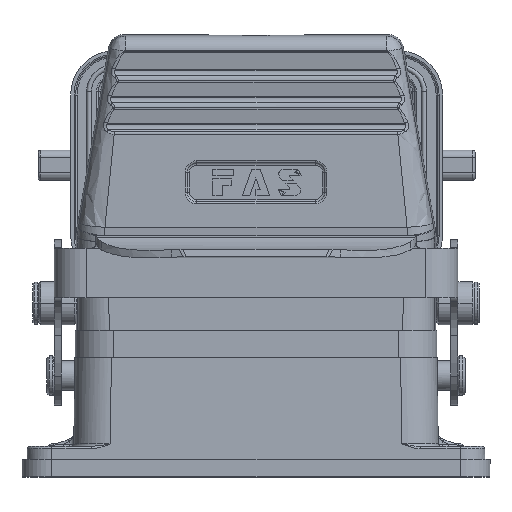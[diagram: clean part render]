
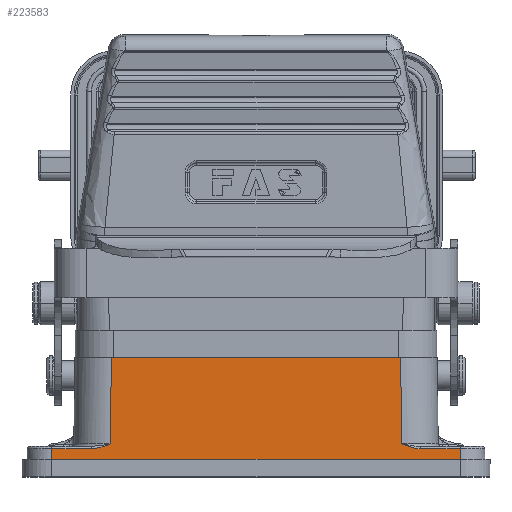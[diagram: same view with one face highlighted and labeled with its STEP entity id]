
A CAD part, top view. The second image highlights one B-rep face of the part: STEP entity #223583.
In plain terms, the highlighted planar face has unit normal (0, 0.014, 1) as drawn and (0, -1, 0.014) by its records, which use the part's own axes.
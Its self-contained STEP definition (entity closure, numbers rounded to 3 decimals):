
#4248 = DIRECTION ( 'NONE',  ( -0.014, -0.014, -1. ) ) ;
#5761 = CARTESIAN_POINT ( 'NONE',  ( 32.192, -21.756, 3.851 ) ) ;
#8778 = ORIENTED_EDGE ( 'NONE', *, *, #34207, .T. ) ;
#15384 = CARTESIAN_POINT ( 'NONE',  ( 31.793, -21.755, 3.937 ) ) ;
#17188 = VECTOR ( 'NONE', #36092, 1000. ) ;
#17341 = CARTESIAN_POINT ( 'NONE',  ( -31.416, -21.753, 4.051 ) ) ;
#20079 = CARTESIAN_POINT ( 'NONE',  ( -31.463, -21.754, 4.037 ) ) ;
#21852 = DIRECTION ( 'NONE',  ( -0.014, 0.014, 1. ) ) ;
#22779 = ORIENTED_EDGE ( 'NONE', *, *, #130205, .T. ) ;
#23771 = DIRECTION ( 'NONE',  ( 0., -1., 0.014 ) ) ;
#24103 = DIRECTION ( 'NONE',  ( -1., 0., 0. ) ) ;
#25160 = CARTESIAN_POINT ( 'NONE',  ( -41.449, -21.758, 3.707 ) ) ;
#31518 = ORIENTED_EDGE ( 'NONE', *, *, #123358, .F. ) ;
#34207 = EDGE_CURVE ( 'NONE', #229043, #210422, #190977, .T. ) ;
#36092 = DIRECTION ( 'NONE',  ( 1., 0., 0. ) ) ;
#40773 = CARTESIAN_POINT ( 'NONE',  ( 29.595, -21.744, 4.693 ) ) ;
#41077 = CARTESIAN_POINT ( 'NONE',  ( -31.364, -21.753, 4.067 ) ) ;
#42737 = VECTOR ( 'NONE', #4248, 1000. ) ;
#48608 = AXIS2_PLACEMENT_3D ( 'NONE', #260065, #23771, #152423 ) ;
#50511 = CARTESIAN_POINT ( 'NONE',  ( 32.928, -21.758, 3.726 ) ) ;
#51417 = VERTEX_POINT ( 'NONE', #237705 ) ;
#53500 = EDGE_CURVE ( 'NONE', #51417, #87062, #139252, .T. ) ;
#59302 = CARTESIAN_POINT ( 'NONE',  ( -31.257, -21.753, 4.1 ) ) ;
#60660 = CARTESIAN_POINT ( 'NONE',  ( -29.989, -21.747, 4.542 ) ) ;
#61121 = B_SPLINE_CURVE_WITH_KNOTS ( 'NONE', 3,
 ( #269310, #179855, #224617, #139363 ),
 .UNSPECIFIED., .F., .F.,
 ( 4, 4 ),
 ( 0., 1. ),
 .UNSPECIFIED. ) ;
#61937 = CARTESIAN_POINT ( 'NONE',  ( -48.758, -21.758, 3.707 ) ) ;
#66744 = CARTESIAN_POINT ( 'NONE',  ( 30.042, -21.747, 4.519 ) ) ;
#74893 = VECTOR ( 'NONE', #177717, 1000. ) ;
#75851 = CARTESIAN_POINT ( 'NONE',  ( 0., -21.5, 22.2 ) ) ;
#76330 = ORIENTED_EDGE ( 'NONE', *, *, #191256, .T. ) ;
#76575 = CARTESIAN_POINT ( 'NONE',  ( 29.351, -21.5, 22.2 ) ) ;
#86352 = CARTESIAN_POINT ( 'NONE',  ( 30.947, -21.751, 4.2 ) ) ;
#87062 = VERTEX_POINT ( 'NONE', #127029 ) ;
#88926 = CARTESIAN_POINT ( 'NONE',  ( 30.947, -21.751, 4.2 ) ) ;
#89528 = FACE_OUTER_BOUND ( 'NONE', #151383, .T. ) ;
#91014 = VERTEX_POINT ( 'NONE', #88926 ) ;
#96300 = LINE ( 'NONE', #118664, #17188 ) ;
#100046 = EDGE_CURVE ( 'NONE', #91014, #257447, #253092, .T. ) ;
#101261 = CARTESIAN_POINT ( 'NONE',  ( -31.464, -21.754, 4.037 ) ) ;
#104379 = CARTESIAN_POINT ( 'NONE',  ( 41.5, -21.81, 0. ) ) ;
#104409 = CARTESIAN_POINT ( 'NONE',  ( 32.17, -21.756, 3.855 ) ) ;
#110087 = CARTESIAN_POINT ( 'NONE',  ( 30.493, -21.749, 4.355 ) ) ;
#110620 = ORIENTED_EDGE ( 'NONE', *, *, #100046, .T. ) ;
#110640 = CARTESIAN_POINT ( 'NONE',  ( 32.361, -21.757, 3.816 ) ) ;
#112028 = CARTESIAN_POINT ( 'NONE',  ( 32.213, -21.756, 3.846 ) ) ;
#113631 = ORIENTED_EDGE ( 'NONE', *, *, #258614, .F. ) ;
#114793 = CARTESIAN_POINT ( 'NONE',  ( 32.554, -21.757, 3.781 ) ) ;
#117555 = CARTESIAN_POINT ( 'NONE',  ( 31.388, -21.753, 4.052 ) ) ;
#117803 = DIRECTION ( 'NONE',  ( 1., 0., 0. ) ) ;
#118664 = CARTESIAN_POINT ( 'NONE',  ( 0., -21.81, 0. ) ) ;
#122757 = CARTESIAN_POINT ( 'NONE',  ( 41.449, -21.758, 3.707 ) ) ;
#123358 = EDGE_CURVE ( 'NONE', #135894, #275146, #250504, .T. ) ;
#123695 = CARTESIAN_POINT ( 'NONE',  ( 41.5, -21.81, 0. ) ) ;
#124985 = CARTESIAN_POINT ( 'NONE',  ( -31.028, -21.752, 4.173 ) ) ;
#126350 = CARTESIAN_POINT ( 'NONE',  ( -31.442, -21.754, 4.044 ) ) ;
#127029 = CARTESIAN_POINT ( 'NONE',  ( -33.417, -21.758, 3.707 ) ) ;
#130097 = PLANE ( 'NONE',  #48608 ) ;
#130205 = EDGE_CURVE ( 'NONE', #210422, #223768, #253455, .T. ) ;
#135894 = VERTEX_POINT ( 'NONE', #174432 ) ;
#139217 = CARTESIAN_POINT ( 'NONE',  ( -41.449, -21.758, 3.707 ) ) ;
#139252 = B_SPLINE_CURVE_WITH_KNOTS ( 'NONE', 3,
 ( #187835, #60660, #208841, #124985, #59302, #41077, #17341, #126350, #145964, #211557, #20079, #101261, #190566, #186471, #249437 ),
 .UNSPECIFIED., .F., .F.,
 ( 4, 1, 1, 1, 1, 1, 1, 1, 2, 2, 4 ),
 ( 0., 0.25, 0.375, 0.438, 0.469, 0.484, 0.492, 0.496, 0.498, 0.5, 1. ),
 .UNSPECIFIED. ) ;
#139363 = CARTESIAN_POINT ( 'NONE',  ( 29.595, -21.744, 4.693 ) ) ;
#145964 = CARTESIAN_POINT ( 'NONE',  ( -31.454, -21.754, 4.04 ) ) ;
#147238 = DIRECTION ( 'NONE',  ( -1., 0., 0. ) ) ;
#150940 = VERTEX_POINT ( 'NONE', #270183 ) ;
#151383 = EDGE_LOOP ( 'NONE', ( #22779, #76330, #110620, #113631, #31518, #269257, #191437, #172435, #204808, #237992, #8778 ) ) ;
#152423 = DIRECTION ( 'NONE',  ( -1., 0., 0. ) ) ;
#160789 = VECTOR ( 'NONE', #147238, 1000. ) ;
#163582 = CARTESIAN_POINT ( 'NONE',  ( 30.947, -21.751, 4.2 ) ) ;
#169506 = LINE ( 'NONE', #173676, #238062 ) ;
#171564 = CARTESIAN_POINT ( 'NONE',  ( 29.595, -21.744, 4.693 ) ) ;
#172099 = VERTEX_POINT ( 'NONE', #139217 ) ;
#172435 = ORIENTED_EDGE ( 'NONE', *, *, #249196, .T. ) ;
#173676 = CARTESIAN_POINT ( 'NONE',  ( -48.758, -21.758, 3.707 ) ) ;
#174432 = CARTESIAN_POINT ( 'NONE',  ( -29.351, -21.5, 22.2 ) ) ;
#174831 = VECTOR ( 'NONE', #117803, 1000. ) ;
#176265 = CARTESIAN_POINT ( 'NONE',  ( 32.178, -21.756, 3.854 ) ) ;
#177717 = DIRECTION ( 'NONE',  ( -0.014, -0.014, -1. ) ) ;
#179855 = CARTESIAN_POINT ( 'NONE',  ( 29.432, -21.581, 16.364 ) ) ;
#186471 = CARTESIAN_POINT ( 'NONE',  ( -32.86, -21.758, 3.708 ) ) ;
#187835 = CARTESIAN_POINT ( 'NONE',  ( -29.595, -21.744, 4.693 ) ) ;
#190566 = CARTESIAN_POINT ( 'NONE',  ( -32.21, -21.757, 3.818 ) ) ;
#190977 = LINE ( 'NONE', #104379, #224901 ) ;
#191256 = EDGE_CURVE ( 'NONE', #223768, #91014, #264659, .T. ) ;
#191437 = ORIENTED_EDGE ( 'NONE', *, *, #53500, .T. ) ;
#195866 = CARTESIAN_POINT ( 'NONE',  ( 32.263, -21.756, 3.836 ) ) ;
#204808 = ORIENTED_EDGE ( 'NONE', *, *, #206561, .T. ) ;
#206561 = EDGE_CURVE ( 'NONE', #172099, #150940, #237684, .T. ) ;
#208841 = CARTESIAN_POINT ( 'NONE',  ( -30.518, -21.749, 4.346 ) ) ;
#210422 = VERTEX_POINT ( 'NONE', #122757 ) ;
#210555 = EDGE_CURVE ( 'NONE', #150940, #229043, #96300, .T. ) ;
#211557 = CARTESIAN_POINT ( 'NONE',  ( -31.46, -21.754, 4.038 ) ) ;
#218209 = CARTESIAN_POINT ( 'NONE',  ( 33.417, -21.758, 3.707 ) ) ;
#219665 = CARTESIAN_POINT ( 'NONE',  ( -29.351, -21.5, 22.2 ) ) ;
#221099 = LINE ( 'NONE', #219665, #74893 ) ;
#223583 = ADVANCED_FACE ( 'NONE', ( #89528 ), #130097, .T. ) ;
#223768 = VERTEX_POINT ( 'NONE', #255583 ) ;
#224617 = CARTESIAN_POINT ( 'NONE',  ( 29.514, -21.663, 10.529 ) ) ;
#224901 = VECTOR ( 'NONE', #21852, 1000. ) ;
#229043 = VERTEX_POINT ( 'NONE', #123695 ) ;
#237684 = LINE ( 'NONE', #25160, #42737 ) ;
#237705 = CARTESIAN_POINT ( 'NONE',  ( -29.595, -21.744, 4.693 ) ) ;
#237992 = ORIENTED_EDGE ( 'NONE', *, *, #210555, .T. ) ;
#238062 = VECTOR ( 'NONE', #24103, 1000. ) ;
#241988 = CARTESIAN_POINT ( 'NONE',  ( 33.227, -21.758, 3.707 ) ) ;
#249196 = EDGE_CURVE ( 'NONE', #87062, #172099, #169506, .T. ) ;
#249437 = CARTESIAN_POINT ( 'NONE',  ( -33.417, -21.758, 3.707 ) ) ;
#250504 = LINE ( 'NONE', #75851, #174831 ) ;
#253092 = B_SPLINE_CURVE_WITH_KNOTS ( 'NONE', 3,
 ( #86352, #110087, #66744, #171564 ),
 .UNSPECIFIED., .F., .F.,
 ( 4, 4 ),
 ( 0., 1. ),
 .UNSPECIFIED. ) ;
#253455 = LINE ( 'NONE', #61937, #160789 ) ;
#255583 = CARTESIAN_POINT ( 'NONE',  ( 33.417, -21.758, 3.707 ) ) ;
#257447 = VERTEX_POINT ( 'NONE', #40773 ) ;
#258614 = EDGE_CURVE ( 'NONE', #275146, #257447, #61121, .T. ) ;
#260065 = CARTESIAN_POINT ( 'NONE',  ( -48.758, -21.5, 22.2 ) ) ;
#264659 = B_SPLINE_CURVE_WITH_KNOTS ( 'NONE', 3,
 ( #218209, #241988, #50511, #114793, #110640, #195866, #112028, #5761, #176265, #104409, #15384, #117555, #163582 ),
 .UNSPECIFIED., .F., .F.,
 ( 4, 1, 1, 1, 1, 1, 2, 2, 4 ),
 ( 0., 0.25, 0.375, 0.438, 0.469, 0.484, 0.492, 0.5, 1. ),
 .UNSPECIFIED. ) ;
#269257 = ORIENTED_EDGE ( 'NONE', *, *, #272066, .T. ) ;
#269310 = CARTESIAN_POINT ( 'NONE',  ( 29.351, -21.5, 22.2 ) ) ;
#270183 = CARTESIAN_POINT ( 'NONE',  ( -41.5, -21.81, 0. ) ) ;
#272066 = EDGE_CURVE ( 'NONE', #135894, #51417, #221099, .T. ) ;
#275146 = VERTEX_POINT ( 'NONE', #76575 ) ;
